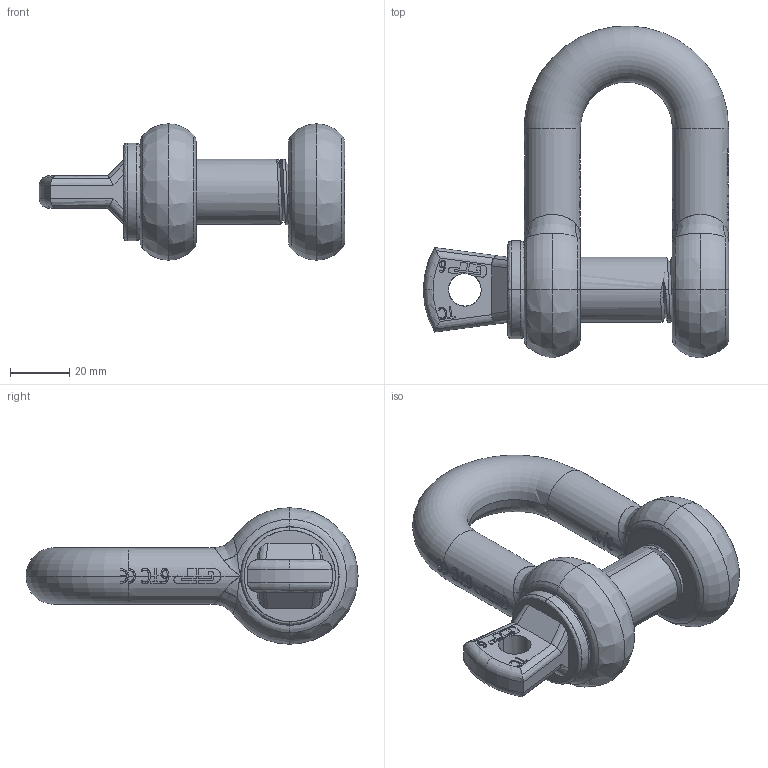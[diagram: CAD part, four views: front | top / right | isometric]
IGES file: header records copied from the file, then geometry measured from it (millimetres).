
Start section: START RECORD GO HERE.
Global section: file name: 4,75.igs; native system: Solidworks 2009      A Version 5 Release 17 ; preprocessor: Solidworks                 ; author: v.b.; organization: P4; date: 20090807.081826; units: millimetre
Bounding box: 103 x 111.98 x 46 mm (x, y, z)
Surface area: 29717.1 mm2 (no closed solid volume)
Topology: 0 solids, 0 shells, 651 faces, 4270 edges, 4262 vertices
Faces by surface type: plane 246, bspline 230, revolution 175
